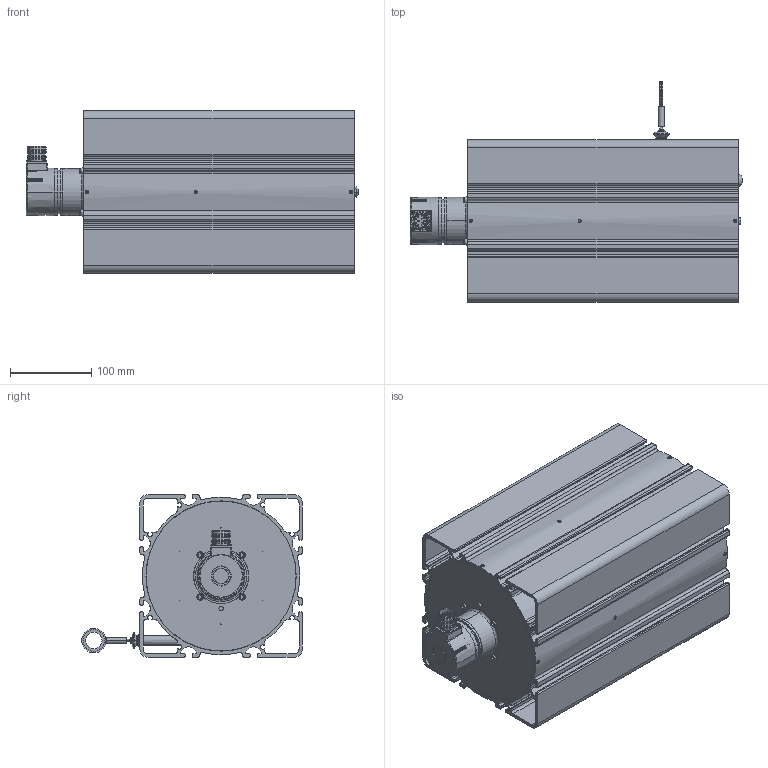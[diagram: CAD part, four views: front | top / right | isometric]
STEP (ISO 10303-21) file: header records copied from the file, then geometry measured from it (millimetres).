
FILE_DESCRIPTION((''),'2;1');
FILE_NAME('WDS-50000-P200-SR-SSI_02_ASM','2024-05-28T10:41:18',('15000597'),(''),'CREO PARAMETRIC BY PTC INC, 2022164','CREO PARAMETRIC BY PTC INC, 2022164','');
FILE_SCHEMA(('AUTOMOTIVE_DESIGN { 1 0 10303 214 1 1 1 1 }'));
Products named in the file (40): TELESO_SENZORU_50M_P200_AF0; BOCNICE_VNEJSI_P200_AF0; LOZISKO_6000_10X26X8_AF1; PREDNI_STENA_P200_DIRA_S_POJIST_AF0; SROUB_ISO7380_COC_HEX_C_M5X10_AF0; TRUBKA_PRUCHODKY_P200_AF0; PRUCHODKA_P200; GUMOVY_VLNOVEC; STIRATKO_LANKO_FORMA_0I8; DUTY_NYT_A_3X10; GP_7I5X2I0X25_EXT_EPDM60; LANKO_7X7_0I63_0I8_AF0; OKO_LANKA_TRE; CU-TRUBICKA_2X1I4X5_NEPOUZIVAT_AF0; SPOJKA_GS5_PR6_2I1_AF0; KOLIK_PRUZNY_2X8_AF0; PODLOZKA_M4_VEJIROVA_AF0; PODLOZKA_M4_VEJIROVA_AF1; PODLOZKA_M4_VEJIROVA_AF2; PODLOZKA_M4_VEJIROVA_AF3; SROUB_ISO4762_VALC_HEX_M4X6_AF0; SROUB_ISO4762_VALC_HEX_M4X6_AF1; SROUB_ISO4762_VALC_HEX_M4X6_AF2; SROUB_ISO4762_VALC_HEX_M4X6_AF3; SROUB_ISO7380_COC_HEX_M8X8_AF0; PRIRUBA_SYNCHRO_P96_P200_AF0; SPOJKA_KRIZ_AF0; SROUB_ISO4029_STAV_HEX_M4X4; SROUB_ISO4029_STAV_HEX_M4X4_AF0; SROUB_ISO4029_STAV_HEX_M4X4_AF1; SROUB_ISO4029_STAV_HEX_M4X4_AF2; SROUB_ISO4029_STAV_HEX_M4X4_AF3; SROUB_ISO4029_STAV_HEX_M4X4_AF4; SROUB_ISO4029_STAV_HEX_M4X4_AF5; SROUB_ISO4029_STAV_HEX_M4X4_AF6; SROUB_ISO4029_STAV_HEX_M4X4_AF7; SPOJKA_GS5_PR6_AF0; SROUB_ISO4029_STAV_HEX_M3X3_AF0; BAU_SYNCHRO_SSI_EN580EIML-SU06; WDS-50000-P200-SR-SSI_02_ASM
Assembly tree (42 placements, depth 2):
  WDS-50000-P200-SR-SSI_02_ASM
    TELESO_SENZORU_50M_P200_AF0
    BOCNICE_VNEJSI_P200_AF0
    LOZISKO_6000_10X26X8_AF1
    PREDNI_STENA_P200_DIRA_S_POJIST_AF0
    SROUB_ISO7380_COC_HEX_C_M5X10_AF0
    TRUBKA_PRUCHODKY_P200_AF0
    PRUCHODKA_P200
    GUMOVY_VLNOVEC
    STIRATKO_LANKO_FORMA_0I8
    DUTY_NYT_A_3X10
    GP_7I5X2I0X25_EXT_EPDM60
    LANKO_7X7_0I63_0I8_AF0
    OKO_LANKA_TRE
    CU-TRUBICKA_2X1I4X5_NEPOUZIVAT_AF0
    SPOJKA_GS5_PR6_2I1_AF0
    KOLIK_PRUZNY_2X8_AF0
    PODLOZKA_M4_VEJIROVA_AF0
    PODLOZKA_M4_VEJIROVA_AF1
    PODLOZKA_M4_VEJIROVA_AF2
    PODLOZKA_M4_VEJIROVA_AF3
    SROUB_ISO4762_VALC_HEX_M4X6_AF0
    SROUB_ISO4762_VALC_HEX_M4X6_AF1
    SROUB_ISO4762_VALC_HEX_M4X6_AF2
    SROUB_ISO4762_VALC_HEX_M4X6_AF3
    SROUB_ISO7380_COC_HEX_M8X8_AF0
    PRIRUBA_SYNCHRO_P96_P200_AF0
    SPOJKA_KRIZ_AF0
    SROUB_ISO4029_STAV_HEX_M4X4  x4
    SROUB_ISO4029_STAV_HEX_M4X4_AF0
    SROUB_ISO4029_STAV_HEX_M4X4_AF1
    SROUB_ISO4029_STAV_HEX_M4X4_AF2
    SROUB_ISO4029_STAV_HEX_M4X4_AF3
    SROUB_ISO4029_STAV_HEX_M4X4_AF4
    SROUB_ISO4029_STAV_HEX_M4X4_AF5
    SROUB_ISO4029_STAV_HEX_M4X4_AF6
    SROUB_ISO4029_STAV_HEX_M4X4_AF7
    SPOJKA_GS5_PR6_AF0
    SROUB_ISO4029_STAV_HEX_M3X3_AF0
    BAU_SYNCHRO_SSI_EN580EIML-SU06
Bounding box: 408.85 x 271.7 x 200 mm (x, y, z)
Volume: 1941050 mm3; surface area: 978184.6 mm2
Topology: 34 solids, 72 shells, 2687 faces, 7117 edges, 4599 vertices
Faces by surface type: plane 1043, cylinder 812, bspline 295, cone 290, torus 159, extrusion 50, sphere 22, revolution 16
Entity records: 137994 total; most frequent: CARTESIAN_POINT 51707, ORIENTED_EDGE 13640, DIRECTION 12386, EDGE_CURVE 6911, AXIS2_PLACEMENT_3D 4695, PRESENTATION_STYLE_ASSIGNMENT 4666, STYLED_ITEM 4666, VERTEX_POINT 4518
